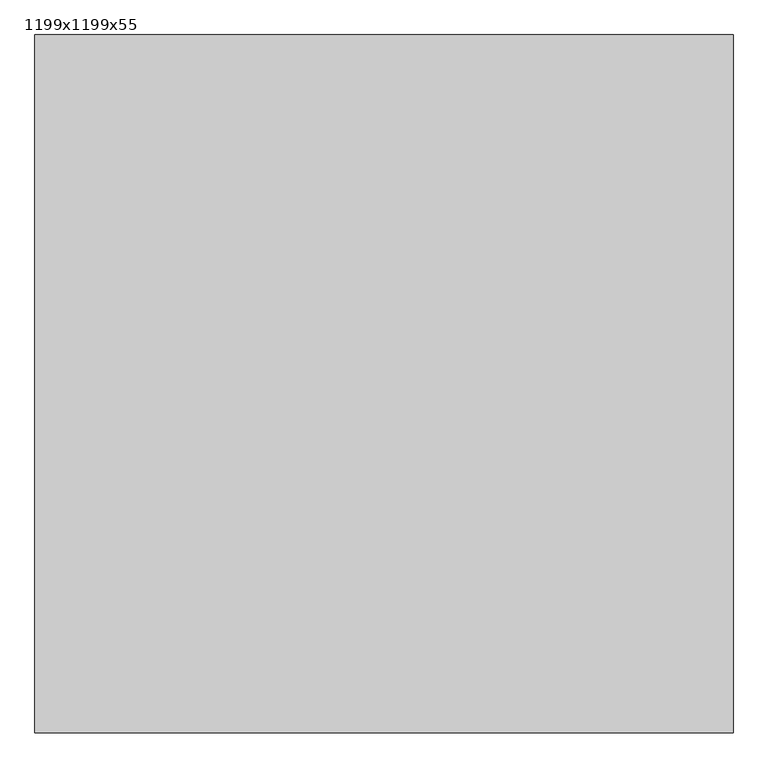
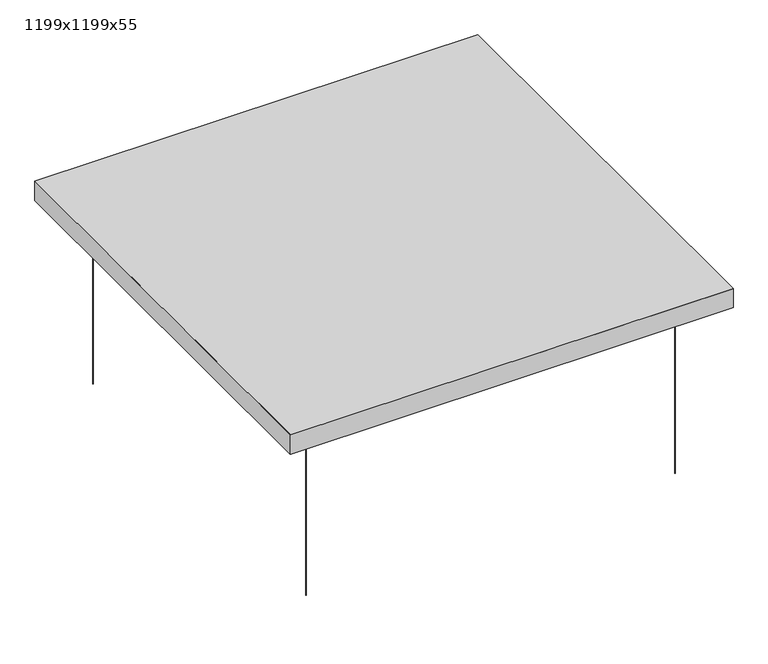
"""IFC4 building model written with IfcOpenShell, lengths in millimetres: proxy geometry, Texaa_Plafond respirant_Strato_Panneaux absorbant : 1199x1199x55."""

from ifc_helpers import new_model, si_unit, point, frame, frame_2d, origin, origin_with_axes, place, context, project, spatial, polyline, circle_curve, trimmed, segment, composite_curve, outline, extrude, faceted_brep, source, transform, mapped, element, save


def proxy_1199x1199x55_67f2c269(model_context):
    return source(origin(), model_context, "Body", "SolidModel", [
        extrude(outline(composite_curve([segment(trimmed(circle_curve(frame_2d((-499.5, -499.5)), 0.75), [point((-500.25, -499.5))], [point((-498.75, -499.5))], False, "CARTESIAN"), True, "CONTINUOUS"), segment(trimmed(circle_curve(frame_2d((-499.5, -499.5)), 0.75), [point((-498.75, -499.5))], [point((-500.25, -499.5))], False, "CARTESIAN"), True, "CONTINUOUS")], self_intersect=False)), origin_with_axes(), (0.0, 0.0, 1.0), 500.0),
        extrude(outline(composite_curve([segment(trimmed(circle_curve(frame_2d((499.5, -499.5)), 0.75), [point((498.75, -499.5))], [point((500.25, -499.5))], False, "CARTESIAN"), True, "CONTINUOUS"), segment(trimmed(circle_curve(frame_2d((499.5, -499.5)), 0.75), [point((500.25, -499.5))], [point((498.75, -499.5))], False, "CARTESIAN"), True, "CONTINUOUS")], self_intersect=False)), origin_with_axes(), (0.0, 0.0, 1.0), 500.0),
        extrude(outline(composite_curve([segment(trimmed(circle_curve(frame_2d((499.5, 499.5)), 0.75), [point((498.75, 499.5))], [point((500.25, 499.5))], False, "CARTESIAN"), True, "CONTINUOUS"), segment(trimmed(circle_curve(frame_2d((499.5, 499.5)), 0.75), [point((500.25, 499.5))], [point((498.75, 499.5))], False, "CARTESIAN"), True, "CONTINUOUS")], self_intersect=False)), origin_with_axes(), (0.0, 0.0, 1.0), 500.0),
        extrude(outline(composite_curve([segment(trimmed(circle_curve(frame_2d((-499.5, 499.5)), 0.75), [point((-500.25, 499.5))], [point((-498.75, 499.5))], False, "CARTESIAN"), True, "CONTINUOUS"), segment(trimmed(circle_curve(frame_2d((-499.5, 499.5)), 0.75), [point((-498.75, 499.5))], [point((-500.25, 499.5))], False, "CARTESIAN"), True, "CONTINUOUS")], self_intersect=False)), origin_with_axes(), (0.0, 0.0, 1.0), 500.0),
        extrude(outline(polyline([(-598.5, -598.5), (-598.5, 598.5), (598.5, 598.5), (598.5, -598.5), (-598.5, -598.5)])), frame((0.0, 0.0, 501.0), z_axis=(0.0, 0.0, 1.0), x_axis=(1.0, 0.0, 0.0)), (0.0, 0.0, 1.0), 53.0),
        faceted_brep([(-599.5, -599.5, 555.0), (599.5, -599.5, 555.0), (599.5, 599.5, 555.0), (-599.5, 599.5, 555.0), (-599.5, -599.5, 500.0), (-599.5, 599.5, 500.0), (599.5, 599.5, 500.0), (599.5, -599.5, 500.0), (-549.5, 549.5, 500.0), (-549.5, -549.5, 500.0), (549.5, -549.5, 500.0), (549.5, 549.5, 500.0), (549.5, 549.5, 501.0), (-549.5, 549.5, 501.0), (549.5, -549.5, 501.0), (-549.5, -549.5, 501.0), (-598.5, -598.5, 554.0), (-598.5, 598.5, 554.0), (598.5, 598.5, 554.0), (598.5, -598.5, 554.0), (-598.5, -598.5, 501.0), (598.5, -598.5, 501.0), (598.5, 598.5, 501.0), (-598.5, 598.5, 501.0)], [[[0, 1, 2, 3]], [[4, 5, 6, 7], [8, 9, 10, 11]], [[3, 5, 4, 0]], [[2, 6, 5, 3]], [[1, 7, 6, 2]], [[0, 4, 7, 1]], [[8, 11, 12, 13]], [[11, 10, 14, 12]], [[10, 9, 15, 14]], [[13, 15, 9, 8]], [[16, 17, 18, 19]], [[20, 21, 22, 23], [12, 14, 15, 13]], [[16, 20, 23, 17]], [[17, 23, 22, 18]], [[18, 22, 21, 19]], [[19, 21, 20, 16]]]),
    ])


if __name__ == "__main__":
    model = new_model("IFC4")
    model_context = context("Model", 3, world=origin())
    ifc_project = project(units=[si_unit("LENGTHUNIT", "METRE", prefix="MILLI")], contexts=[model_context])
    site = spatial("IfcSite", under=ifc_project)
    building = spatial("IfcBuilding", under=site)
    placement = place(None, origin())
    proxy_1199x1199x55_shape = proxy_1199x1199x55_67f2c269(model_context)
    element("IfcBuildingElementProxy", 1, Name="Texaa_Plafond respirant_Strato_Panneaux absorbant : 1199x1199x55", ObjectType="Texaa_Plafond respirant_Strato_Panneaux absorbant : 1199x1199x55", at=placement, inside=building, context=model_context, shape_type="MappedRepresentation", body=[
        mapped(proxy_1199x1199x55_shape, transform((0.0, 0.0, 0.0), x_axis=(1.0, 0.0, 0.0), y_axis=(0.0, 1.0, 0.0), z_axis=(0.0, 0.0, 1.0))),
    ])
    save(model, "model.ifc")
